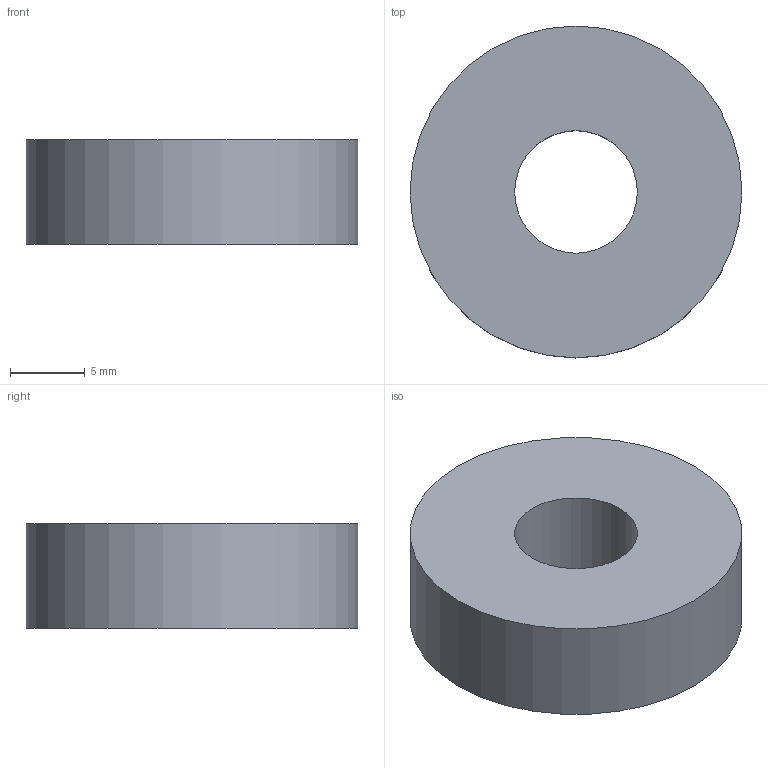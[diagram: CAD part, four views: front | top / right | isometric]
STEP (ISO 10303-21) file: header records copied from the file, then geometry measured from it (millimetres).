
FILE_DESCRIPTION(/* description */ ('STEP AP242','CAx-IF Rec.Pracs.---Representation and Presentation of Product Manufacturing Information (PMI)---4.0---2014-10-13','CAx-IF Rec.Pracs.---3D Tessellated Geometry---0.4---2014-09-14','2;1'),/* implementation_level */ '2;1');
FILE_NAME(/* name */ 'Part Studio 1 - Top Bearing',/* time_stamp */ '2025-09-04T05:47:30Z',/* author */ (''),/* organization */ (''),/* preprocessor_version */ 'ST-DEVELOPER v20',/* originating_system */ 'ONSHAPE BY PTC INC, 1.203',/* authorisation */ ' ');
FILE_SCHEMA (('AP242_MANAGED_MODEL_BASED_3D_ENGINEERING_MIM_LF { 1 0 10303 442 1 1 4 }'));
Length unit declared in the file: metre
Products named in the file (1): Top Bearing
Bounding box: 22.2 x 22.2 x 7 mm (x, y, z)
Volume: 2339.9 mm3; surface area: 1337.1 mm2
Topology: 1 solids, 1 shells, 4 faces, 6 edges, 4 vertices
Faces by surface type: cylinder 2, plane 2
Full cylindrical faces by diameter (mm): 8.2 x1, 22.2 x1
Entity records: 110 total; most frequent: DIRECTION 18, CARTESIAN_POINT 13, AXIS2_PLACEMENT_3D 9, ORIENTED_EDGE 8, EDGE_LOOP 8, FACE_BOUND 8, EDGE_CURVE 4, VERTEX_POINT 4
